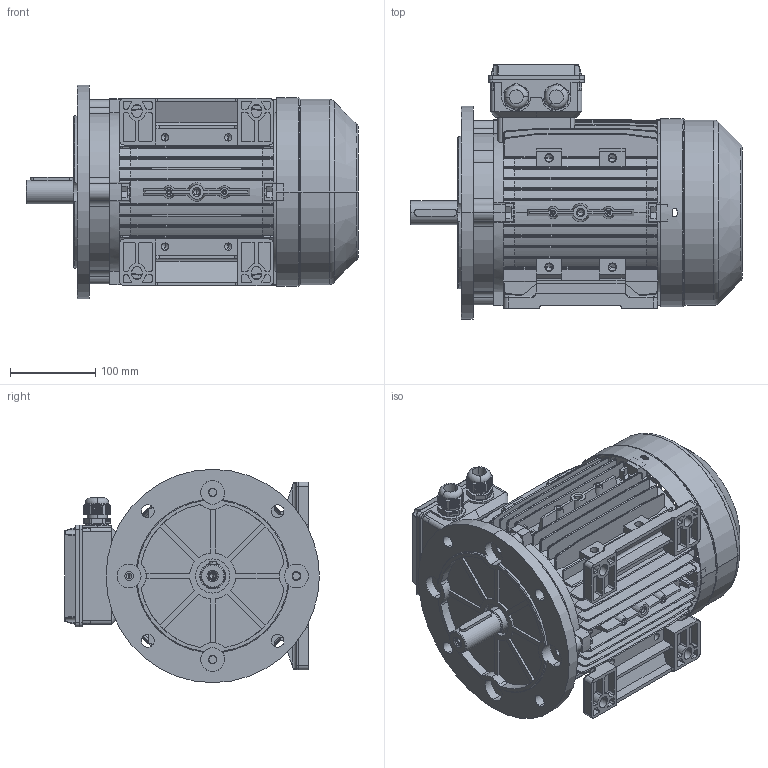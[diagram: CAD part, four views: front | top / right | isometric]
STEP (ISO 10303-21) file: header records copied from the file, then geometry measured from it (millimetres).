
FILE_DESCRIPTION (( 'STEP AP203' ), '1' );
FILE_NAME ('ME112M-2¡¢6P B35.STEP', '2016-04-29T10:43:35', ( 'PC' ), ( 'Microsoft' ), 'SwSTEP 2.0', 'SolidWorks 2014', '' );
FILE_SCHEMA (( 'CONFIG_CONTROL_DESIGN' ));
Length unit declared in the file: millimetre
Products named in the file (9): M112菁褐; M25 cable gland; MS132諉盄碟裔; M112儂褲; ME112M-2﹜6P B35; M112傷裔B5; M112-Shaft drive end; M112瑞欶_95; MS132諉盄碟釱_2Holes
Assembly tree (10 placements, depth 2):
  ME112M-2﹜6P B35
    M112儂褲
    M112瑞欶_95
    M25 cable gland  x2
    M112傷裔B5
    MS132諉盄碟釱_2Holes
    MS132諉盄碟裔
    M112-Shaft drive end
    M112菁褐  x2
Bounding box: 389 x 298.5 x 250 mm (x, y, z)
Volume: 2061711.2 mm3; surface area: 1096880.5 mm2
Topology: 12 solids, 12 shells, 3723 faces, 10028 edges, 6335 vertices
Faces by surface type: plane 1789, cylinder 1101, bspline 452, cone 209, sphere 102, torus 70
Entity records: 122780 total; most frequent: CARTESIAN_POINT 43910, ORIENTED_EDGE 17092, DIRECTION 14965, EDGE_CURVE 8546, VERTEX_POINT 5415, AXIS2_PLACEMENT_3D 5052, VECTOR 4861, LINE 4861
